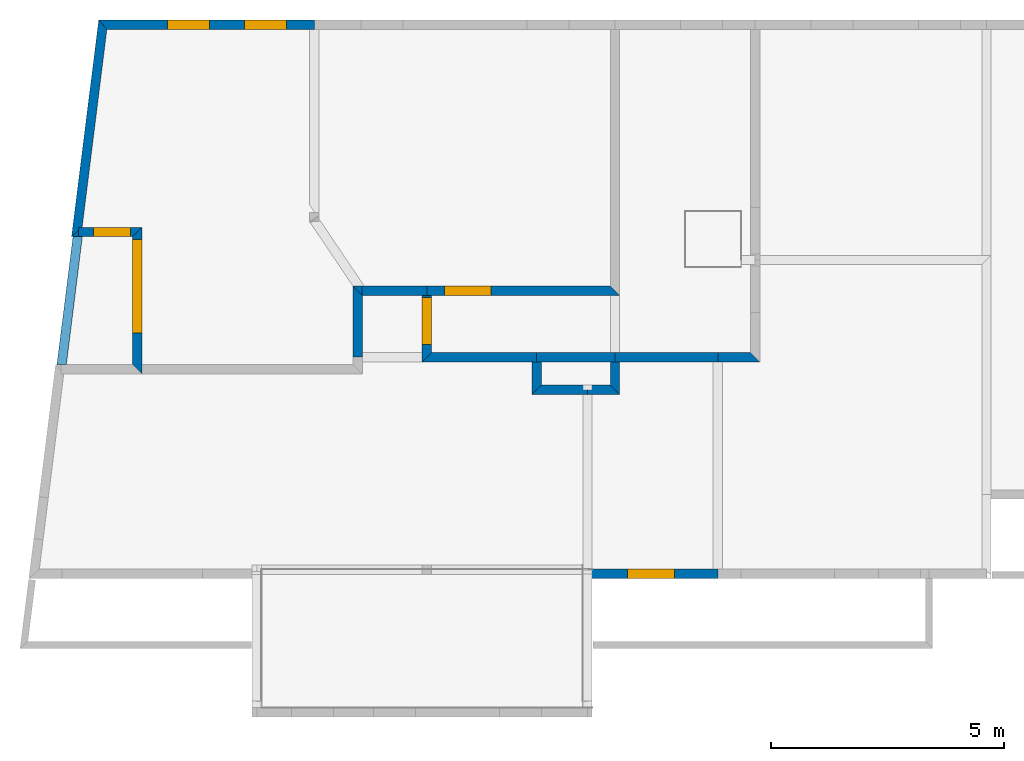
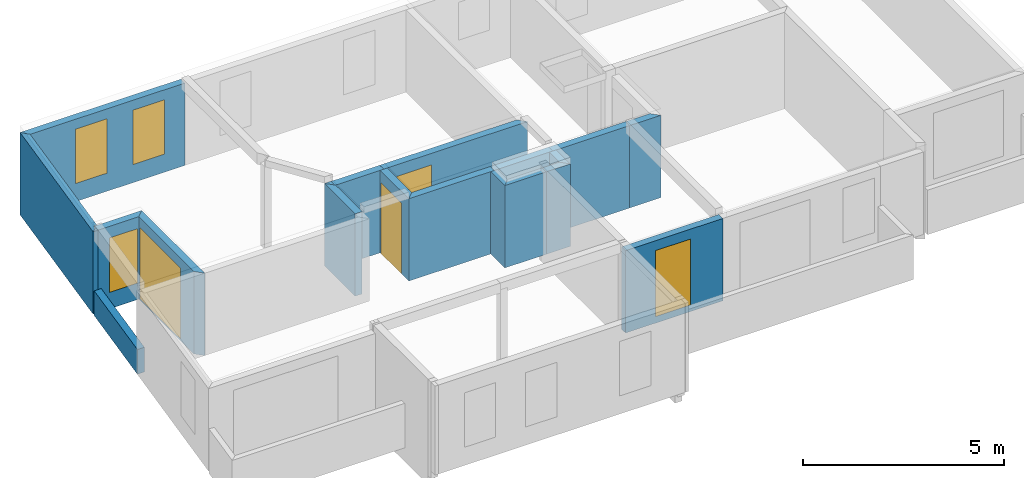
# One storey, part 9 of 11: 20 walls, 5 windows, 2 doors, 7 openings.
"""IFC2X3 building model written with IfcOpenShell, lengths in metres."""

from ifc_helpers import new_model, si_unit, direction, frame, origin_with_axes, origin_2d, place, context, subcontext, project, spatial, polyline, rectangle, outline, extrude, material, layer, layer_set, layer_usage, type_object, element, fill, save


model = new_model("IFC2X3")

# Units and contexts
model_context = context("Model", 3, precision=0.0001, world=origin_with_axes(), true_north=direction((0.0, 1.0)))
plan_context = context("Plan", 2, precision=0.0001, world=origin_with_axes(), true_north=direction((0.0, 1.0)))
body_context = subcontext(model_context, "Body", "Model", "MODEL_VIEW")
ifc_project = project(units=[si_unit("MASSUNIT", "GRAM", prefix="KILO"), si_unit("AREAUNIT", "SQUARE_METRE"), si_unit("LENGTHUNIT", "METRE"), si_unit("VOLUMEUNIT", "CUBIC_METRE")], contexts=[plan_context, model_context])

# Site, building, storey
site_placement = place(None, origin_with_axes())
site = spatial("IfcSite", under=ifc_project, at=site_placement, Name="$", CompositionType="ELEMENT")
building_placement = place(site_placement, origin_with_axes())
building = spatial("IfcBuilding", under=site, at=building_placement, Name="Classeur ENS Ensemble", CompositionType="ELEMENT")
storey_placement = place(building_placement, frame((-3.040468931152, -16.07714394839, 6.03), z_axis=(0.0, 0.0, 1.0), x_axis=(1.0, 0.0, 0.0)))
storey = spatial("IfcBuildingStorey", under=building, at=storey_placement, Name="003 R+2", CompositionType="ELEMENT", Elevation=6.03)

# Wall, opening, window
ifc_material_1 = material(Name="mur BBM 20 cm")
ifc_layer_1 = layer(ifc_material_1, 0.2000000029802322)
ifc_layer_set_1 = layer_set([ifc_layer_1], Name="mur BBM 20 cm+")
ifc_layer_usage_1 = layer_usage(ifc_layer_set_1, "AXIS2", "POSITIVE", -0.1000000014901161)
wall_type = type_object("IfcWallType", PredefinedType="STANDARD")
wall_1_placement = place(storey_placement, frame((3.88597535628, 8.577143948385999, 0.0), z_axis=(0.0, 0.0, 1.0), x_axis=(0.0, 1.0, 0.0)))
wall_1 = element("IfcWall", 1, at=wall_1_placement, inside=storey, type_object=wall_type, material=ifc_layer_usage_1, Name="mur BBM 20 cm", context=body_context, shape_type="SweptSolid", held_by="IfcProductRepresentation", body=[
    extrude(outline(polyline([(0.1000000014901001, 0.1000000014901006), (0.1000000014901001, 0.1000000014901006), (0.1000000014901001, 0.1000000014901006), (2.839999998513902, 0.1000000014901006), (2.839999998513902, 0.1000000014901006), (2.839999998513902, 0.1000000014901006), (3.0400000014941, -0.1000000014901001), (3.0400000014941, -0.1000000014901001), (3.0400000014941, -0.1000000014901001), (0.1000000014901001, -0.1000000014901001), (0.1000000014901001, -0.1000000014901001), (-0.1000000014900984, -0.1000000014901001), (0.1000000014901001, 0.1000000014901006)])), origin_with_axes(), (0.0, 0.0, 1.0), 2.5),
])
opening_1_placement = place(wall_1_placement, frame((1.774284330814, 0.1000000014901, 0.05000000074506), z_axis=(0.0, 0.0, 1.0), x_axis=(1.0, 0.0, 0.0)))
opening_1 = element("IfcOpeningElement", 2, at=opening_1_placement, cuts=wall_1, Name="BL 200 x 215", context=body_context, shape_type="SweptSolid", held_by="IfcProductRepresentation", body=[
    extrude(rectangle(XDim=2.0, YDim=2.150000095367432, at=origin_2d()), frame((0.0, 0.0, 1.075000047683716), z_axis=(0.0, -1.0, 0.0), x_axis=(1.0, 0.0, 0.0)), (0.0, 0.0, 1.0), 0.2000000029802),
])
window_1_placement = place(opening_1_placement, origin_with_axes())
window_1 = element("IfcWindow", 3, at=window_1_placement, inside=storey, Name="BL 200 x 215", OverallHeight=2.150000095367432, OverallWidth=2.0, context=body_context, shape_type="SweptSolid", held_by="IfcProductRepresentation", body=[
    extrude(rectangle(XDim=2.0, YDim=2.150000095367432, at=origin_2d()), frame((0.0, 0.0, 1.075000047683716), z_axis=(0.0, -1.0, 0.0), x_axis=(1.0, 0.0, 0.0)), (0.0, 0.0, 1.0), 0.2000000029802),
])
fill(opening_1, window_1)

# Walls
ifc_material_2 = material(Name="mur BBM 20 cm")
ifc_layer_2 = layer(ifc_material_2, 0.2000000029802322)
ifc_layer_set_2 = layer_set([ifc_layer_2], Name="mur BBM 20 cm+")
ifc_layer_usage_2 = layer_usage(ifc_layer_set_2, "AXIS2", "POSITIVE", -0.1000000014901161)
wall_2_placement = place(storey_placement, frame((2.590690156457, 11.51714394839, 0.0), z_axis=(0.0, 0.0, 1.0), x_axis=(1.0, 0.0, 0.0)))
element("IfcWall", 4, at=wall_2_placement, inside=storey, type_object=wall_type, material=ifc_layer_usage_2, Name="mur BBM 20 cm", context=body_context, shape_type="SweptSolid", held_by="IfcProductRepresentation", body=[
    extrude(outline(polyline([(0.11329584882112, 0.1000000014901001), (0.1132958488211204, 0.1000000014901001), (0.1132958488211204, 0.1000000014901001), (0.03023405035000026, 0.1000000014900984), (0.03023405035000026, 0.1000000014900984), (0.03023405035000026, 0.1000000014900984), (0.03023405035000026, -0.1000000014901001), (-0.08306179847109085, -0.1000000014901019), (-0.08306179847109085, -0.1000000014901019), (-0.1132958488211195, -0.1000000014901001), (-0.1132958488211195, -0.1000000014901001), (-0.1132958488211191, -0.1000000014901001), (0.11329584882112, 0.1000000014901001)])), origin_with_axes(), (0.0, 0.0, 1.0), 2.5),
])
ifc_material_3 = material(Name="mur BBM 20 cm")
ifc_layer_3 = layer(ifc_material_3, 0.2000000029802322)
ifc_layer_set_3 = layer_set([ifc_layer_3], Name="mur BBM 20 cm+")
ifc_layer_usage_3 = layer_usage(ifc_layer_set_3, "AXIS2", "POSITIVE", -0.1000000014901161)
wall_3_placement = place(storey_placement, frame((2.590690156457, 11.51714394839, 0.0), z_axis=(0.0, 0.0, 1.0), x_axis=(0.1241879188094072, 0.9922587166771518, 0.0)))
element("IfcWall", 5, at=wall_3_placement, inside=storey, type_object=wall_type, material=ifc_layer_usage_3, Name="mur BBM 20 cm", context=body_context, shape_type="SweptSolid", held_by="IfcProductRepresentation", body=[
    extrude(outline(polyline([(-0.1132958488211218, 0.1000000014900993), (-0.11329584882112, 0.1000000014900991), (-0.11329584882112, 0.1000000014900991), (4.562903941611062, 0.1000000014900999), (4.562903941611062, 0.1000000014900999), (4.562903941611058, 0.1000000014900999), (4.386374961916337, -0.100000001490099), (4.386374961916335, -0.1000000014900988), (4.386374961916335, -0.1000000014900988), (0.1132958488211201, -0.1000000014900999), (0.1132958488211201, -0.1000000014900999), (0.1132958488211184, -0.1000000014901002), (-0.1132958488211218, 0.1000000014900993)])), origin_with_axes(), (0.0, 0.0, 1.0), 2.5),
])

# Wall, openings, windows
ifc_material_4 = material(Name="mur BBM 20 cm")
ifc_layer_4 = layer(ifc_material_4, 0.2000000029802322)
ifc_layer_set_4 = layer_set([ifc_layer_4], Name="mur BBM 20 cm+")
ifc_layer_usage_4 = layer_usage(ifc_layer_set_4, "AXIS2", "POSITIVE", -0.1000000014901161)
wall_4_placement = place(storey_placement, frame((3.146386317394, 15.95714394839, 0.0), z_axis=(0.0, 0.0, 1.0), x_axis=(1.0, 0.0, 0.0)))
wall_4 = element("IfcWall", 6, at=wall_4_placement, inside=storey, type_object=wall_type, material=ifc_layer_usage_4, Name="mur BBM 20 cm", context=body_context, shape_type="SweptSolid", held_by="IfcProductRepresentation", body=[
    extrude(outline(polyline([(-0.0882644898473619, 0.1000000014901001), (-0.08826448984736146, 0.1000000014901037), (-0.08826448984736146, 0.1000000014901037), (4.529860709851, 0.1000000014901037), (4.529860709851, 0.1000000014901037), (4.529860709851, 0.1000000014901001), (4.529860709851, -0.1000000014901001), (4.529860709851, -0.1000000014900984), (4.529860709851, -0.1000000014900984), (0.08826448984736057, -0.1000000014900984), (0.08826448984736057, -0.1000000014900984), (0.08826448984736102, -0.1000000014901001), (-0.0882644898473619, 0.1000000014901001)])), origin_with_axes(), (0.0, 0.0, 1.0), 2.5),
])
opening_2_placement = place(wall_4_placement, frame((1.836273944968, 0.1000000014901, 0.5500000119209), z_axis=(0.0, 0.0, 1.0), x_axis=(1.0, 0.0, 0.0)))
opening_2 = element("IfcOpeningElement", 7, at=opening_2_placement, cuts=wall_4, Name="BL 90 x 165", context=body_context, shape_type="SweptSolid", held_by="IfcProductRepresentation", body=[
    extrude(rectangle(XDim=0.8999999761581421, YDim=1.649999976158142, at=origin_2d()), frame((0.0, 0.0, 0.824999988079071), z_axis=(0.0, -1.0, 0.0), x_axis=(1.0, 0.0, 0.0)), (0.0, 0.0, 1.0), 0.2000000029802),
])
opening_3_placement = place(wall_4_placement, frame((3.489353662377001, 0.1000000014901, 0.5500000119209), z_axis=(0.0, 0.0, 1.0), x_axis=(1.0, 0.0, 0.0)))
opening_3 = element("IfcOpeningElement", 8, at=opening_3_placement, cuts=wall_4, Name="BL 90 x 165", context=body_context, shape_type="SweptSolid", held_by="IfcProductRepresentation", body=[
    extrude(rectangle(XDim=0.8999999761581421, YDim=1.649999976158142, at=origin_2d()), frame((0.0, 0.0, 0.824999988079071), z_axis=(0.0, -1.0, 0.0), x_axis=(1.0, 0.0, 0.0)), (0.0, 0.0, 1.0), 0.2000000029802),
])
window_2_placement = place(opening_2_placement, origin_with_axes())
window_2 = element("IfcWindow", 9, at=window_2_placement, inside=storey, Name="BL 90 x 165", OverallHeight=1.649999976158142, OverallWidth=0.8999999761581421, context=body_context, shape_type="SweptSolid", held_by="IfcProductRepresentation", body=[
    extrude(rectangle(XDim=0.8999999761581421, YDim=1.649999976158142, at=origin_2d()), frame((0.0, 0.0, 0.824999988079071), z_axis=(0.0, -1.0, 0.0), x_axis=(1.0, 0.0, 0.0)), (0.0, 0.0, 1.0), 0.2000000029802),
])
fill(opening_2, window_2)
window_3_placement = place(opening_3_placement, origin_with_axes())
window_3 = element("IfcWindow", 10, at=window_3_placement, inside=storey, Name="BL 90 x 165", OverallHeight=1.649999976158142, OverallWidth=0.8999999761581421, context=body_context, shape_type="SweptSolid", held_by="IfcProductRepresentation", body=[
    extrude(rectangle(XDim=0.8999999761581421, YDim=1.649999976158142, at=origin_2d()), frame((0.0, 0.0, 0.824999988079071), z_axis=(0.0, -1.0, 0.0), x_axis=(1.0, 0.0, 0.0)), (0.0, 0.0, 1.0), 0.2000000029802),
])
fill(opening_3, window_3)

# Walls
ifc_material_5 = material(Name="voile BA 20 cm")
ifc_layer_5 = layer(ifc_material_5, 0.2000000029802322)
ifc_layer_set_5 = layer_set([ifc_layer_5], Name="voile BA 20 cm+")
ifc_layer_usage_5 = layer_usage(ifc_layer_set_5, "AXIS2", "POSITIVE", -0.1000000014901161)
wall_5_placement = place(storey_placement, frame((8.605975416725, 10.25714394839, 0.0), z_axis=(0.0, 0.0, 1.0), x_axis=(1.0, 0.0, 0.0)))
element("IfcWall", 11, at=wall_5_placement, inside=storey, type_object=wall_type, material=ifc_layer_usage_5, Name="voile BA 20 cm", context=body_context, shape_type="SweptSolid", held_by="IfcProductRepresentation", body=[
    extrude(outline(polyline([(-0.1000000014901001, 0.1000000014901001), (-0.1000000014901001, 0.1000000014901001), (-0.1000000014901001, 0.1000000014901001), (0.08799073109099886, 0.1000000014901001), (0.08799073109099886, 0.1000000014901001), (0.08799073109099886, 0.1000000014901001), (0.08799073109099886, -0.1000000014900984), (0.08799073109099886, -0.1000000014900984), (0.08799073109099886, -0.1000000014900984), (0.1000000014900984, -0.1000000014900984), (0.1000000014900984, -0.1000000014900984), (0.1000000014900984, -0.1000000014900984), (-0.1000000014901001, 0.1000000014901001)])), origin_with_axes(), (0.0, 0.0, 1.0), 2.5),
])
ifc_material_6 = material(Name="voile BA 20 cm")
ifc_layer_6 = layer(ifc_material_6, 0.2000000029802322)
ifc_layer_set_6 = layer_set([ifc_layer_6], Name="voile BA 20 cm+")
ifc_layer_usage_6 = layer_usage(ifc_layer_set_6, "AXIS2", "POSITIVE", -0.1000000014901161)
wall_6_placement = place(storey_placement, frame((10.08597535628, 8.837143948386, 0.0), z_axis=(0.0, 0.0, 1.0), x_axis=(1.0, 0.0, 0.0)))
element("IfcWall", 12, at=wall_6_placement, inside=storey, type_object=wall_type, material=ifc_layer_usage_6, Name="voile BA 20 cm", context=body_context, shape_type="SweptSolid", held_by="IfcProductRepresentation", body=[
    extrude(outline(polyline([(0.1000000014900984, 0.1000000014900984), (0.1000000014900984, 0.1000000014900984), (0.1000000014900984, 0.1000000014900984), (2.35, 0.1000000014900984), (2.35, 0.1000000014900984), (2.35, 0.1000000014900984), (2.35, -0.1000000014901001), (2.2499999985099, -0.1000000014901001), (2.2499999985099, -0.1000000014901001), (-0.1000000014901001, -0.1000000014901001), (-0.1000000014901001, -0.1000000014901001), (-0.1000000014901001, -0.1000000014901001), (0.1000000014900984, 0.1000000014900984)])), origin_with_axes(), (0.0, 0.0, 1.0), 2.5),
])

# Wall, opening, door
ifc_material_7 = material(Name="voile BA 20 cm")
ifc_layer_7 = layer(ifc_material_7, 0.2000000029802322)
ifc_layer_set_7 = layer_set([ifc_layer_7], Name="voile BA 20 cm+")
ifc_layer_usage_7 = layer_usage(ifc_layer_set_7, "AXIS2", "POSITIVE", -0.1000000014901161)
wall_7_placement = place(storey_placement, frame((10.08597535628, 8.837143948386, 0.0), z_axis=(0.0, 0.0, 1.0), x_axis=(0.0, 1.0, 0.0)))
wall_7 = element("IfcWall", 13, at=wall_7_placement, inside=storey, type_object=wall_type, material=ifc_layer_usage_7, Name="voile BA 20 cm", context=body_context, shape_type="SweptSolid", held_by="IfcProductRepresentation", body=[
    extrude(outline(polyline([(-0.1000000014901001, 0.1000000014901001), (-0.1000000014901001, 0.1000000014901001), (-0.1000000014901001, 0.1000000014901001), (1.3199999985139, 0.1000000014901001), (1.3199999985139, 0.1000000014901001), (1.3199999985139, 0.1000000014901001), (1.3199999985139, -0.1000000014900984), (1.3199999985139, -0.1000000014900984), (1.3199999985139, -0.1000000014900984), (0.1000000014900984, -0.1000000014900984), (0.1000000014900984, -0.1000000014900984), (0.1000000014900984, -0.1000000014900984), (-0.1000000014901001, 0.1000000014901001)])), origin_with_axes(), (0.0, 0.0, 1.0), 2.5),
])
opening_4_placement = place(wall_7_placement, frame((0.7741924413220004, 0.1000000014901, 0.0), z_axis=(0.0, 0.0, 1.0), x_axis=(1.0, 0.0, 0.0)))
opening_4 = element("IfcOpeningElement", 14, at=opening_4_placement, cuts=wall_7, Name="PE 93 x 215", context=body_context, shape_type="SweptSolid", held_by="IfcProductRepresentation", body=[
    extrude(rectangle(XDim=1.0, YDim=2.150000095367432, at=origin_2d()), frame((0.0, 0.0, 1.075000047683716), z_axis=(0.0, -1.0, 0.0), x_axis=(1.0, 0.0, 0.0)), (0.0, 0.0, 1.0), 0.2000000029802),
])
door_1_placement = place(opening_4_placement, origin_with_axes())
door_1 = element("IfcDoor", 15, at=door_1_placement, inside=storey, Name="PE 93 x 215", OverallHeight=2.150000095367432, OverallWidth=1.0, context=body_context, shape_type="SweptSolid", held_by="IfcProductRepresentation", body=[
    extrude(rectangle(XDim=1.0, YDim=2.150000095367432, at=origin_2d()), frame((0.0, 0.0, 1.075000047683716), z_axis=(0.0, -1.0, 0.0), x_axis=(1.0, 0.0, 0.0)), (0.0, 0.0, 1.0), 0.2000000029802),
])
fill(opening_4, door_1)

ifc_material_8 = material(Name="voile BA 20 cm")
ifc_layer_8 = layer(ifc_material_8, 0.2000000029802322)
ifc_layer_set_8 = layer_set([ifc_layer_8], Name="voile BA 20 cm+")
ifc_layer_usage_8 = layer_usage(ifc_layer_set_8, "AXIS2", "POSITIVE", -0.1000000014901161)
wall_8_placement = place(storey_placement, frame((10.08597535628, 10.25714394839, 0.0), z_axis=(0.0, 0.0, 1.0), x_axis=(1.0, 0.0, 0.0)))
wall_8 = element("IfcWall", 16, at=wall_8_placement, inside=storey, type_object=wall_type, material=ifc_layer_usage_8, Name="voile BA 20 cm", context=body_context, shape_type="SweptSolid", held_by="IfcProductRepresentation", body=[
    extrude(outline(polyline([(0.0, 0.1000000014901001), (0.0, 0.1000000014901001), (0.0, 0.1000000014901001), (3.929999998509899, 0.1000000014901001), (3.929999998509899, 0.1000000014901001), (3.929999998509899, 0.1000000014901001), (4.130000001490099, -0.1000000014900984), (4.130000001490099, -0.1000000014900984), (4.130000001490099, -0.1000000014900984), (0.1000000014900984, -0.1000000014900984), (0.1000000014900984, -0.1000000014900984), (0.0, -0.1000000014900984), (0.0, 0.1000000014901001)])), origin_with_axes(), (0.0, 0.0, 1.0), 2.5),
])
opening_5_placement = place(wall_8_placement, frame((0.874831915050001, 0.1000000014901, 0.0), z_axis=(0.0, 0.0, 1.0), x_axis=(1.0, 0.0, 0.0)))
opening_5 = element("IfcOpeningElement", 17, at=opening_5_placement, cuts=wall_8, Name="PE 93 x 215", context=body_context, shape_type="SweptSolid", held_by="IfcProductRepresentation", body=[
    extrude(rectangle(XDim=1.0, YDim=2.150000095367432, at=origin_2d()), frame((0.0, 0.0, 1.075000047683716), z_axis=(0.0, -1.0, 0.0), x_axis=(1.0, 0.0, 0.0)), (0.0, 0.0, 1.0), 0.2000000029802),
])
door_2_placement = place(opening_5_placement, origin_with_axes())
door_2 = element("IfcDoor", 18, at=door_2_placement, inside=storey, Name="PE 93 x 215", OverallHeight=2.150000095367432, OverallWidth=1.0, context=body_context, shape_type="SweptSolid", held_by="IfcProductRepresentation", body=[
    extrude(rectangle(XDim=1.0, YDim=2.150000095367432, at=origin_2d()), frame((0.0, 0.0, 1.075000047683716), z_axis=(0.0, -1.0, 0.0), x_axis=(1.0, 0.0, 0.0)), (0.0, 0.0, 1.0), 0.2000000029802),
])
fill(opening_5, door_2)

# Walls
ifc_material_9 = material(Name="voile BA 20 cm")
ifc_layer_9 = layer(ifc_material_9, 0.2000000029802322)
ifc_layer_set_9 = layer_set([ifc_layer_9], Name="voile BA 20 cm+")
ifc_layer_usage_9 = layer_usage(ifc_layer_set_9, "AXIS2", "POSITIVE", -0.1000000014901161)
wall_9_placement = place(storey_placement, frame((14.11597535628, 8.137143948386, 0.0), z_axis=(0.0, 0.0, 1.0), x_axis=(0.0, 0.9999999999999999, 0.0)))
element("IfcWall", 19, at=wall_9_placement, inside=storey, type_object=wall_type, material=ifc_layer_usage_9, Name="voile BA 20 cm", context=body_context, shape_type="SweptSolid", held_by="IfcProductRepresentation", body=[
    extrude(outline(polyline([(0.1000000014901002, 0.1000000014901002), (0.1000000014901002, 0.1000000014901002), (0.1000000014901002, 0.1000000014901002), (0.5999999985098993, 0.1000000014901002), (0.5999999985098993, 0.1000000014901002), (0.5999999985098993, 0.1000000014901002), (0.5999999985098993, -0.1000000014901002), (0.5999999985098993, -0.1000000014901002), (0.5999999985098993, -0.1000000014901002), (-0.1000000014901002, -0.1000000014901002), (-0.1000000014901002, -0.1000000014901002), (-0.1000000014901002, -0.1000000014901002), (0.1000000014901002, 0.1000000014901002)])), origin_with_axes(), (0.0, 0.0, 1.0), 2.5),
])
ifc_material_10 = material(Name="voile BA 20 cm")
ifc_layer_10 = layer(ifc_material_10, 0.2000000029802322)
ifc_layer_set_10 = layer_set([ifc_layer_10], Name="voile BA 20 cm+")
ifc_layer_usage_10 = layer_usage(ifc_layer_set_10, "AXIS2", "POSITIVE", -0.1000000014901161)
wall_10_placement = place(storey_placement, frame((14.11597535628, 8.837143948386, 0.0), z_axis=(0.0, 0.0, 1.0), x_axis=(1.0, 0.0, 0.0)))
element("IfcWall", 20, at=wall_10_placement, inside=storey, type_object=wall_type, material=ifc_layer_usage_10, Name="voile BA 20 cm", context=body_context, shape_type="SweptSolid", held_by="IfcProductRepresentation", body=[
    extrude(outline(polyline([(0.0, 0.1000000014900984), (0.0, 0.1000000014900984), (0.0, 0.1000000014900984), (2.200644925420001, 0.1000000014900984), (2.200644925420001, 0.1000000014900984), (2.200644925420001, 0.1000000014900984), (2.200644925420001, -0.1000000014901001), (2.200644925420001, -0.1000000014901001), (2.200644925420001, -0.1000000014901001), (0.1000000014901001, -0.1000000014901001), (0.1000000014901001, -0.1000000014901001), (0.0, -0.1000000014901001), (0.0, 0.1000000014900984)])), origin_with_axes(), (0.0, 0.0, 1.0), 2.5),
])
ifc_material_11 = material(Name="voile BA 20 cm")
ifc_layer_11 = layer(ifc_material_11, 0.2000000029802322)
ifc_layer_set_11 = layer_set([ifc_layer_11], Name="voile BA 20 cm+")
ifc_layer_usage_11 = layer_usage(ifc_layer_set_11, "AXIS2", "POSITIVE", -0.1000000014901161)
wall_11_placement = place(storey_placement, frame((12.43597535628, 8.137143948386, 0.0), z_axis=(0.0, 0.0, 1.0), x_axis=(1.0, 0.0, 0.0)))
element("IfcWall", 21, at=wall_11_placement, inside=storey, type_object=wall_type, material=ifc_layer_usage_11, Name="voile BA 20 cm", context=body_context, shape_type="SweptSolid", held_by="IfcProductRepresentation", body=[
    extrude(outline(polyline([(0.1000000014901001, 0.1000000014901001), (0.1000000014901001, 0.1000000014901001), (0.1000000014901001, 0.1000000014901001), (1.09, 0.1000000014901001), (1.09, 0.1000000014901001), (1.09, 0.1000000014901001), (1.09, -0.1000000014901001), (1.09, -0.1000000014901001), (1.09, -0.1000000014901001), (-0.1000000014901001, -0.1000000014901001), (-0.1000000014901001, -0.1000000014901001), (-0.1000000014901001, -0.1000000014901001), (0.1000000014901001, 0.1000000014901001)])), origin_with_axes(), (0.0, 0.0, 1.0), 2.5),
])
ifc_material_12 = material(Name="voile BA 20 cm")
ifc_layer_12 = layer(ifc_material_12, 0.2000000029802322)
ifc_layer_set_12 = layer_set([ifc_layer_12], Name="voile BA 20 cm+")
ifc_layer_usage_12 = layer_usage(ifc_layer_set_12, "AXIS2", "POSITIVE", -0.1000000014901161)
wall_12_placement = place(storey_placement, frame((13.52597535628, 8.137143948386, 0.0), z_axis=(0.0, 0.0, 1.0), x_axis=(1.0, 0.0, 0.0)))
element("IfcWall", 22, at=wall_12_placement, inside=storey, type_object=wall_type, material=ifc_layer_usage_12, Name="voile BA 20 cm", context=body_context, shape_type="SweptSolid", held_by="IfcProductRepresentation", body=[
    extrude(outline(polyline([(0.0, 0.1000000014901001), (0.0, 0.1000000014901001), (0.0, 0.1000000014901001), (0.4899999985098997, 0.1000000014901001), (0.4899999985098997, 0.1000000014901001), (0.4899999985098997, 0.1000000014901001), (0.6900000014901, -0.1000000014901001), (0.6900000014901, -0.1000000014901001), (0.6900000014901, -0.1000000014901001), (0.0, -0.1000000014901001), (0.0, -0.1000000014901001), (0.0, -0.1000000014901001), (0.0, 0.1000000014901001)])), origin_with_axes(), (0.0, 0.0, 1.0), 2.5),
])
ifc_material_13 = material(Name="voile BA 20 cm")
ifc_layer_13 = layer(ifc_material_13, 0.2000000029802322)
ifc_layer_set_13 = layer_set([ifc_layer_13], Name="voile BA 20 cm+")
ifc_layer_usage_13 = layer_usage(ifc_layer_set_13, "AXIS2", "POSITIVE", -0.1000000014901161)
wall_13_placement = place(storey_placement, frame((12.43597535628, 8.137143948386, 0.0), z_axis=(0.0, 0.0, 1.0), x_axis=(0.0, 0.9999999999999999, 0.0)))
element("IfcWall", 23, at=wall_13_placement, inside=storey, type_object=wall_type, material=ifc_layer_usage_13, Name="voile BA 20 cm", context=body_context, shape_type="SweptSolid", held_by="IfcProductRepresentation", body=[
    extrude(outline(polyline([(-0.1000000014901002, 0.1000000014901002), (-0.1000000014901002, 0.1000000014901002), (-0.1000000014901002, 0.1000000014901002), (0.5999999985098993, 0.1000000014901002), (0.5999999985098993, 0.1000000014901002), (0.5999999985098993, 0.1000000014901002), (0.5999999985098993, -0.1000000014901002), (0.5999999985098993, -0.1000000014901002), (0.5999999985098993, -0.1000000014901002), (0.1000000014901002, -0.1000000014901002), (0.1000000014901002, -0.1000000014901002), (0.1000000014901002, -0.1000000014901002), (-0.1000000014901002, 0.1000000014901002)])), origin_with_axes(), (0.0, 0.0, 1.0), 2.5),
])
ifc_material_14 = material(Name="voile BA 20 cm")
ifc_layer_14 = layer(ifc_material_14, 0.2000000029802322)
ifc_layer_set_14 = layer_set([ifc_layer_14], Name="voile BA 20 cm+")
ifc_layer_usage_14 = layer_usage(ifc_layer_set_14, "AXIS2", "POSITIVE", -0.1000000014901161)
wall_14_placement = place(storey_placement, frame((12.43597535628, 8.837143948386, 0.0), z_axis=(0.0, 0.0, 1.0), x_axis=(1.0, 0.0, 0.0)))
element("IfcWall", 24, at=wall_14_placement, inside=storey, type_object=wall_type, material=ifc_layer_usage_14, Name="voile BA 20 cm", context=body_context, shape_type="SweptSolid", held_by="IfcProductRepresentation", body=[
    extrude(outline(polyline([(0.0, 0.1000000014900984), (0.0, 0.1000000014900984), (0.0, 0.1000000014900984), (1.68, 0.1000000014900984), (1.68, 0.1000000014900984), (1.68, 0.1000000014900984), (1.68, -0.1000000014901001), (1.5799999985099, -0.1000000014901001), (1.5799999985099, -0.1000000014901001), (0.1000000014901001, -0.1000000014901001), (0.1000000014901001, -0.1000000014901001), (0.0, -0.1000000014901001), (0.0, 0.1000000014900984)])), origin_with_axes(), (0.0, 0.0, 1.0), 2.5),
])

# Wall, opening, window
ifc_material_15 = material(Name="mur BBM 20 cm")
ifc_layer_15 = layer(ifc_material_15, 0.2000000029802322)
ifc_layer_set_15 = layer_set([ifc_layer_15], Name="mur BBM 20 cm+")
ifc_layer_usage_15 = layer_usage(ifc_layer_set_15, "AXIS2", "POSITIVE", -0.1000000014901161)
wall_15_placement = place(storey_placement, frame((13.52597535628, 4.197143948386, 0.0), z_axis=(0.0, 0.0, 1.0), x_axis=(1.0, 0.0, 0.0)))
wall_15 = element("IfcWall", 25, at=wall_15_placement, inside=storey, type_object=wall_type, material=ifc_layer_usage_15, Name="mur BBM 20 cm", context=body_context, shape_type="SweptSolid", held_by="IfcProductRepresentation", body=[
    extrude(outline(polyline([(0.0, 0.1000000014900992), (0.0, 0.1000000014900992), (0.0, 0.1000000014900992), (2.790644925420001, 0.1000000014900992), (2.790644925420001, 0.1000000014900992), (2.790644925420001, 0.1000000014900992), (2.790644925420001, -0.1000000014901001), (2.790644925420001, -0.1000000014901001), (2.790644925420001, -0.1000000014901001), (0.0, -0.1000000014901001), (0.0, -0.1000000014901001), (0.0, -0.1000000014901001), (0.0, 0.1000000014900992)])), origin_with_axes(), (0.0, 0.0, 1.0), 2.5),
])
opening_6_placement = place(wall_15_placement, frame((1.36189458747, 0.1000000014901, 0.2000000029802), z_axis=(0.0, 0.0, 1.0), x_axis=(1.0, 0.0, 0.0)))
opening_6 = element("IfcOpeningElement", 26, at=opening_6_placement, cuts=wall_15, Name="BL 100 x 200", context=body_context, shape_type="SweptSolid", held_by="IfcProductRepresentation", body=[
    extrude(rectangle(XDim=1.0, YDim=2.0, at=origin_2d()), frame((0.0, 0.0, 1.0), z_axis=(0.0, -1.0, 0.0), x_axis=(1.0, 0.0, 0.0)), (0.0, 0.0, 1.0), 0.2000000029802),
])
window_4_placement = place(opening_6_placement, origin_with_axes())
window_4 = element("IfcWindow", 27, at=window_4_placement, inside=storey, Name="BL 100 x 200", OverallHeight=2.0, OverallWidth=1.0, context=body_context, shape_type="SweptSolid", held_by="IfcProductRepresentation", body=[
    extrude(rectangle(XDim=1.0, YDim=2.0, at=origin_2d()), frame((0.0, 0.0, 1.0), z_axis=(0.0, -1.0, 0.0), x_axis=(1.0, 0.0, 0.0)), (0.0, 0.0, 1.0), 0.2000000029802),
])
fill(opening_6, window_4)

# Walls
ifc_material_16 = material(Name="voile BA 20 cm")
ifc_layer_16 = layer(ifc_material_16, 0.2000000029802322)
ifc_layer_set_16 = layer_set([ifc_layer_16], Name="voile BA 20 cm+")
ifc_layer_usage_16 = layer_usage(ifc_layer_set_16, "AXIS2", "POSITIVE", -0.1000000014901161)
wall_16_placement = place(storey_placement, frame((8.693966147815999, 10.25714394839, 0.0), z_axis=(0.0, 0.0, 1.0), x_axis=(1.0, 0.0, 0.0)))
element("IfcWall", 28, at=wall_16_placement, inside=storey, type_object=wall_type, material=ifc_layer_usage_16, Name="voile BA 20 cm", context=body_context, shape_type="SweptSolid", held_by="IfcProductRepresentation", body=[
    extrude(outline(polyline([(0.0, 0.1000000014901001), (0.0, 0.1000000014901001), (0.0, 0.1000000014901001), (1.392009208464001, 0.1000000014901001), (1.392009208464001, 0.1000000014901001), (1.392009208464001, 0.1000000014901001), (1.392009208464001, -0.1000000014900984), (1.292009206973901, -0.1000000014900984), (1.292009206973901, -0.1000000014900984), (0.0, -0.1000000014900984), (0.0, -0.1000000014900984), (0.0, -0.1000000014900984), (0.0, 0.1000000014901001)])), origin_with_axes(), (0.0, 0.0, 1.0), 2.5),
])
ifc_material_17 = material(Name="voile BA 20 cm")
ifc_layer_17 = layer(ifc_material_17, 0.2000000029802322)
ifc_layer_set_17 = layer_set([ifc_layer_17], Name="voile BA 20 cm+")
ifc_layer_usage_17 = layer_usage(ifc_layer_set_17, "AXIS2", "POSITIVE", -0.1000000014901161)
wall_17_placement = place(storey_placement, frame((8.605975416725, 8.837143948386, 0.0), z_axis=(0.0, 0.0, 1.0), x_axis=(0.0, 1.0, 0.0)))
element("IfcWall", 29, at=wall_17_placement, inside=storey, type_object=wall_type, material=ifc_layer_usage_17, Name="voile BA 20 cm", context=body_context, shape_type="SweptSolid", held_by="IfcProductRepresentation", body=[
    extrude(outline(polyline([(0.0, 0.1000000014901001), (0.0, 0.1000000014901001), (0.0, 0.1000000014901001), (1.520000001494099, 0.1000000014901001), (1.520000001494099, 0.1000000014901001), (1.520000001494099, 0.1000000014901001), (1.3199999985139, -0.1000000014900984), (1.3199999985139, -0.1000000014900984), (1.3199999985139, -0.1000000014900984), (0.0, -0.1000000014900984), (0.0, -0.1000000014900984), (0.0, -0.1000000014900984), (0.0, 0.1000000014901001)])), origin_with_axes(), (0.0, 0.0, 1.0), 2.5),
])
ifc_material_18 = material(Name="voile BA 20 cm")
ifc_layer_18 = layer(ifc_material_18, 0.2000000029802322)
ifc_layer_set_18 = layer_set([ifc_layer_18], Name="voile BA 20 cm+")
ifc_layer_usage_18 = layer_usage(ifc_layer_set_18, "AXIS2", "POSITIVE", -0.1000000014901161)
wall_18_placement = place(storey_placement, frame((16.3166202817, 8.837143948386, 0.0), z_axis=(0.0, 0.0, 1.0), x_axis=(0.9999999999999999, 0.0, 0.0)))
element("IfcWall", 30, at=wall_18_placement, inside=storey, type_object=wall_type, material=ifc_layer_usage_18, Name="voile BA 20 cm", context=body_context, shape_type="SweptSolid", held_by="IfcProductRepresentation", body=[
    extrude(outline(polyline([(0.0, 0.1000000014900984), (0.0, 0.1000000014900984), (0.0, 0.1000000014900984), (0.6993550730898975, 0.1000000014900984), (0.6993550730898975, 0.1000000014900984), (0.6993550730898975, 0.1000000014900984), (0.8993550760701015, -0.1000000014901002), (0.8993550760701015, -0.1000000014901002), (0.8993550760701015, -0.1000000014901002), (0.0, -0.1000000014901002), (0.0, -0.1000000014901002), (0.0, -0.1000000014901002), (0.0, 0.1000000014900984)])), origin_with_axes(), (0.0, 0.0, 1.0), 2.5),
])

# Wall, opening, window
ifc_material_19 = material(Name="mur BBM 20 cm")
ifc_layer_19 = layer(ifc_material_19, 0.2000000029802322)
ifc_layer_set_19 = layer_set([ifc_layer_19], Name="mur BBM 20 cm+")
ifc_layer_usage_19 = layer_usage(ifc_layer_set_19, "AXIS2", "POSITIVE", -0.1000000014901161)
wall_19_placement = place(storey_placement, frame((2.620924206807, 11.51714394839, 0.0), z_axis=(0.0, 0.0, 1.0), x_axis=(1.0, 0.0, 0.0)))
wall_19 = element("IfcWall", 31, at=wall_19_placement, inside=storey, type_object=wall_type, material=ifc_layer_usage_19, Name="mur BBM 20 cm", context=body_context, shape_type="SweptSolid", held_by="IfcProductRepresentation", body=[
    extrude(outline(polyline([(0.0, 0.1000000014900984), (0.0, 0.1000000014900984), (0.0, 0.1000000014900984), (1.3650511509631, 0.1000000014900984), (1.3650511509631, 0.1000000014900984), (1.3650511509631, 0.1000000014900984), (1.1650511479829, -0.1000000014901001), (1.1650511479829, -0.1000000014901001), (1.1650511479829, -0.1000000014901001), (0.08826448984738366, -0.1000000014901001), (0.08826448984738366, -0.1000000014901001), (0.0, -0.1000000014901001), (0.0, 0.1000000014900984)])), origin_with_axes(), (0.0, 0.0, 1.0), 2.5),
])
opening_7_placement = place(wall_19_placement, frame((0.7231997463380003, 0.1000000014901, 0.5), z_axis=(0.0, 0.0, 1.0), x_axis=(1.0, 0.0, 0.0)))
opening_7 = element("IfcOpeningElement", 32, at=opening_7_placement, cuts=wall_19, Name="BL 80 x 165", context=body_context, shape_type="SweptSolid", held_by="IfcProductRepresentation", body=[
    extrude(rectangle(XDim=0.800000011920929, YDim=1.649999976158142, at=origin_2d()), frame((0.0, 0.0, 0.824999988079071), z_axis=(0.0, -1.0, 0.0), x_axis=(1.0, 0.0, 0.0)), (0.0, 0.0, 1.0), 0.2000000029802),
])
window_5_placement = place(opening_7_placement, origin_with_axes())
window_5 = element("IfcWindow", 33, at=window_5_placement, inside=storey, Name="BL 80 x 165", OverallHeight=1.649999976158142, OverallWidth=0.800000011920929, context=body_context, shape_type="SweptSolid", held_by="IfcProductRepresentation", body=[
    extrude(rectangle(XDim=0.800000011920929, YDim=1.649999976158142, at=origin_2d()), frame((0.0, 0.0, 0.824999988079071), z_axis=(0.0, -1.0, 0.0), x_axis=(1.0, 0.0, 0.0)), (0.0, 0.0, 1.0), 0.2000000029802),
])
fill(opening_7, window_5)

# Wall
ifc_material_20 = material(Name="mur BBM 20 cm")
ifc_layer_20 = layer(ifc_material_20, 0.2000000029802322)
ifc_layer_set_20 = layer_set([ifc_layer_20], Name="mur BBM 20 cm+")
ifc_layer_usage_20 = layer_usage(ifc_layer_set_20, "AXIS2", "POSITIVE", -0.1000000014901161)
wall_20_placement = place(storey_placement, frame((2.252963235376, 8.577143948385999, -0.05000000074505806), z_axis=(0.0, 0.0, 1.0), x_axis=(0.1241879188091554, 0.9922587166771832, 0.0)))
element("IfcWall", 34, at=wall_20_placement, inside=storey, type_object=wall_type, material=ifc_layer_usage_20, Name="mur BBM 20 cm", context=body_context, shape_type="SweptSolid", held_by="IfcProductRepresentation", body=[
    extrude(outline(polyline([(0.0882644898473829, 0.1000000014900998), (0.08826448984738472, 0.1000000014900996), (0.08826448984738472, 0.1000000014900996), (2.849641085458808, 0.1000000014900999), (2.849641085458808, 0.1000000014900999), (2.849641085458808, 0.1000000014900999), (2.874672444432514, -0.1000000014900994), (2.874672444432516, -0.1000000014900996), (2.874672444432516, -0.1000000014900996), (0.113295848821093, -0.1000000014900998), (0.113295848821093, -0.1000000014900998), (0.1132958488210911, -0.1000000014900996), (0.0882644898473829, 0.1000000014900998)])), origin_with_axes(), (0.0, 0.0, 1.0), 0.75),
])

save(model, "model.ifc")
